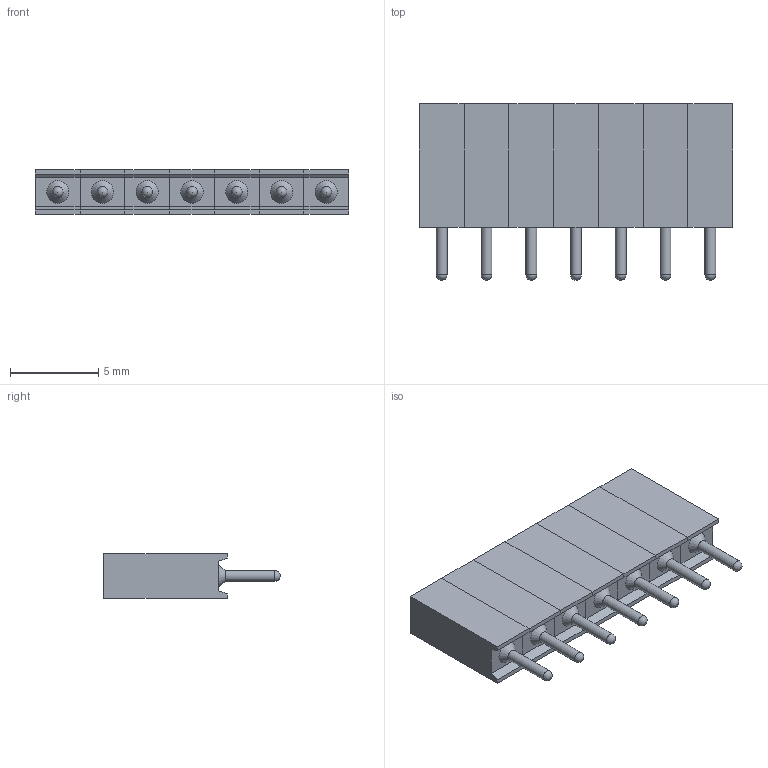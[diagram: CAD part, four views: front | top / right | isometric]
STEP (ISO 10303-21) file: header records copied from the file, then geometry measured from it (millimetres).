
FILE_DESCRIPTION(/* description */ (''),/* implementation_level */ '2;1');
FILE_NAME(/* name */ 'C:/Users/Nicholas/Downloads/FE07 v1.step',/* time_stamp */ '2021-06-05T21:20:02-07:00',/* author */ (''),/* organization */ (''),/* preprocessor_version */ 'ST-DEVELOPER v18.1',/* originating_system */ 'Autodesk Translation Framework v10.9.0.1377',/* authorisation */ '');
FILE_SCHEMA (('AUTOMOTIVE_DESIGN { 1 0 10303 214 3 1 1 }'));
Length unit declared in the file: inch
Products named in the file (1): FE07
Bounding box: 17.78 x 10.01 x 2.54 mm (x, y, z)
Volume: 253.2 mm3; surface area: 802.8 mm2
Topology: 7 solids, 7 shells, 105 faces, 259 edges, 168 vertices
Faces by surface type: plane 70, cone 14, cylinder 14, sphere 7
Full cylindrical faces by diameter (mm): 0.61 x7, 1.27 x7
Entity records: 3078 total; most frequent: CARTESIAN_POINT 519, DIRECTION 506, ORIENTED_EDGE 490, EDGE_CURVE 245, LINE 196, VECTOR 196, VERTEX_POINT 168, AXIS2_PLACEMENT_3D 155
